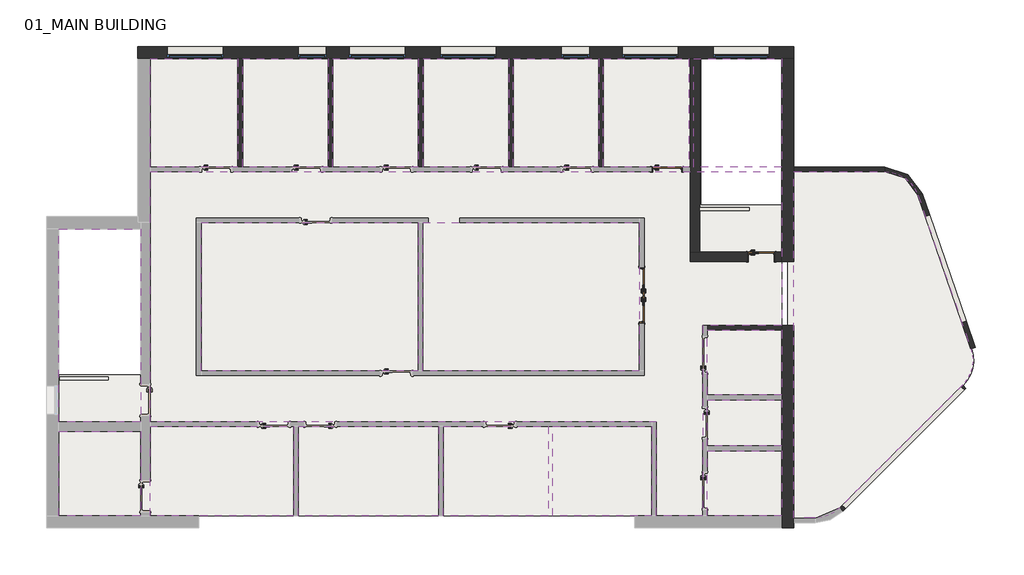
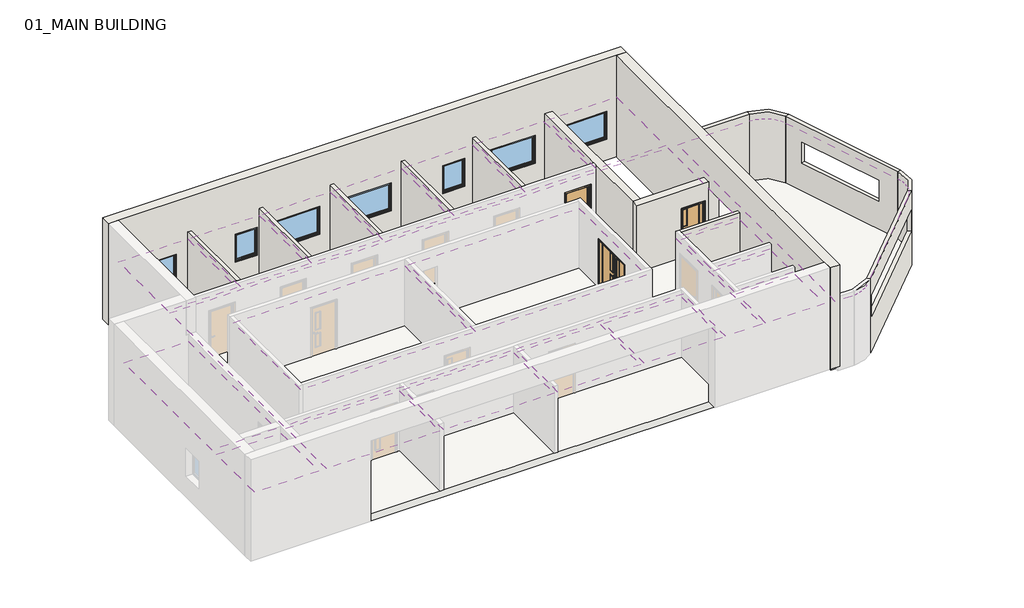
# One storey, part 2 of 2: 20 coverings, 16 walls, 7 windows, 3 doors, 2 slabs.
"""IFC4 building model written with IfcOpenShell, lengths in millimetres."""

from ifc_helpers import new_model, si_unit, point, frame, frame_2d, origin, place, context, project, spatial, polyline, circle_curve, trimmed, segment, composite_curve, outline, extrude, faceted_brep, transform, mapped, element, save
from components import doors_intdbl_3_1810x2110mm_64ebe9ef, doors_intdbl_3_1810x2110mm_1437e5d7, doors_intsgl_1_1010x2110mm_12a6edaf, doors_intsgl_3_910x2110mm_ed6625c4, windows_concept_plain_sgl_1810x1210mm_7f7241d7, windows_concept_plain_sgl_910x1210mm_ef0b7ad2

model = new_model("IFC4")

# Units and contexts
model_context = context("Model", 3, world=origin())
ifc_project = project(units=[si_unit("LENGTHUNIT", "METRE", prefix="MILLI")], contexts=[model_context])

# Site, building, storey
site = spatial("IfcSite", under=ifc_project)
building = spatial("IfcBuilding", under=site)
storey = spatial("IfcBuildingStorey", under=building, Name="01_MAIN BUILDING", Elevation=4500.0)

# Coverings
placement = place(None, origin())
element("IfcCovering", 1, ObjectType="Ceiling_CompoundGeneric", at=placement, inside=storey, context=model_context, shape_type="SweptSolid", body=[
    extrude(outline(polyline([(425322.3206883, -385049.0026386), (425322.3206883, -381550.0026386), (428163.8921169, -381550.0026386), (428163.8921169, -385049.0026386), (425322.3206883, -385049.0026386)])), frame((0.0, 0.0, 7100.0), z_axis=(0.0, 0.0, 1.0), x_axis=(1.0, 0.0, 0.0)), (0.0, 0.0, 1.0), 52.0),
])
element("IfcCovering", 2, ObjectType="Ceiling_CompoundGeneric", at=placement, inside=storey, context=model_context, shape_type="SweptSolid", body=[
    extrude(outline(polyline([(428313.8921169, -381550.0026386), (431080.4635455, -381550.0026386), (431080.4635455, -385049.0026386), (428313.8921169, -385049.0026386), (428313.8921169, -381550.0026386)])), frame((0.0, 0.0, 7100.0), z_axis=(0.0, 0.0, 1.0), x_axis=(1.0, 0.0, 0.0)), (0.0, 0.0, 1.0), 52.0),
])
element("IfcCovering", 3, ObjectType="Ceiling_CompoundGeneric", at=placement, inside=storey, context=model_context, shape_type="SweptSolid", body=[
    extrude(outline(polyline([(431230.4635455, -381550.0026386), (433997.034974, -381550.0026386), (433997.034974, -385049.0026386), (431230.4635455, -385049.0026386), (431230.4635455, -381550.0026386)])), frame((0.0, 0.0, 7100.0), z_axis=(0.0, 0.0, 1.0), x_axis=(1.0, 0.0, 0.0)), (0.0, 0.0, 1.0), 52.0),
])
element("IfcCovering", 4, ObjectType="Ceiling_CompoundGeneric", at=placement, inside=storey, context=model_context, shape_type="SweptSolid", body=[
    extrude(outline(polyline([(434147.034974, -381550.0026386), (436913.6064026, -381550.0026386), (436913.6064026, -385049.0026386), (434147.034974, -385049.0026386), (434147.034974, -381550.0026386)])), frame((0.0, 0.0, 7100.0), z_axis=(0.0, 0.0, 1.0), x_axis=(1.0, 0.0, 0.0)), (0.0, 0.0, 1.0), 52.0),
])
element("IfcCovering", 5, ObjectType="Ceiling_CompoundGeneric", at=placement, inside=storey, context=model_context, shape_type="SweptSolid", body=[
    extrude(outline(polyline([(437063.6064026, -381550.0026386), (439830.1778312, -381550.0026386), (439830.1778312, -385049.0026386), (437063.6064026, -385049.0026386), (437063.6064026, -381550.0026386)])), frame((0.0, 0.0, 7100.0), z_axis=(0.0, 0.0, 1.0), x_axis=(1.0, 0.0, 0.0)), (0.0, 0.0, 1.0), 52.0),
])
element("IfcCovering", 6, ObjectType="Ceiling_CompoundGeneric", at=placement, inside=storey, context=model_context, shape_type="SweptSolid", body=[
    extrude(outline(polyline([(439980.1778312, -381550.0026386), (442746.7492598, -381550.0026386), (442746.7492598, -385049.0026386), (439980.1778312, -385049.0026386), (439980.1778312, -381550.0026386)])), frame((0.0, 0.0, 7100.0), z_axis=(0.0, 0.0, 1.0), x_axis=(1.0, 0.0, 0.0)), (0.0, 0.0, 1.0), 52.0),
])
element("IfcCovering", 7, ObjectType="Ceiling_CompoundGeneric", at=placement, inside=storey, context=model_context, shape_type="SweptSolid", body=[
    extrude(outline(polyline([(442896.7492598, -385049.0026386), (442896.7492598, -381550.0026386), (445738.3206883, -381550.0026386), (445738.3206883, -385049.0026386), (442896.7492598, -385049.0026386)])), frame((0.0, 0.0, 7100.0), z_axis=(0.0, 0.0, 1.0), x_axis=(1.0, 0.0, 0.0)), (0.0, 0.0, 1.0), 52.0),
])
element("IfcCovering", 8, ObjectType="Ceiling_CompoundGeneric", at=placement, inside=storey, context=model_context, shape_type="SweptSolid", body=[
    extrude(outline(polyline([(434142.3206883, -391649.0026386), (434142.3206883, -386849.0026386), (441142.3206883, -386849.0026386), (441142.3206883, -391649.0026386), (434142.3206883, -391649.0026386)])), frame((0.0, 0.0, 7100.0), z_axis=(0.0, 0.0, 1.0), x_axis=(1.0, 0.0, 0.0)), (0.0, 0.0, 1.0), 52.0),
])
element("IfcCovering", 9, ObjectType="Ceiling_CompoundGeneric", at=placement, inside=storey, context=model_context, shape_type="SweptSolid", body=[
    extrude(outline(polyline([(426972.3206883, -386849.0026386), (433992.3206883, -386849.0026386), (433992.3206883, -391649.0026386), (426972.3206883, -391649.0026386), (426972.3206883, -386849.0026386)])), frame((0.0, 0.0, 7100.0), z_axis=(0.0, 0.0, 1.0), x_axis=(1.0, 0.0, 0.0)), (0.0, 0.0, 1.0), 52.0),
])
element("IfcCovering", 10, ObjectType="Ceiling_CompoundGeneric", at=placement, inside=storey, context=model_context, shape_type="SweptSolid", body=[
    extrude(outline(polyline([(422376.3206883, -393299.0026386), (422376.3206883, -387049.0026386), (425012.3206883, -387049.0026386), (425012.3206883, -393299.0026386), (422376.3206883, -393299.0026386)])), frame((0.0, 0.0, 7100.0), z_axis=(0.0, 0.0, 1.0), x_axis=(1.0, 0.0, 0.0)), (0.0, 0.0, 1.0), 52.0),
])
element("IfcCovering", 11, ObjectType="Ceiling_CompoundGeneric", at=placement, inside=storey, context=model_context, shape_type="SweptSolid", body=[
    extrude(outline(polyline([(425012.3206883, -396328.0026386), (422376.3206883, -396328.0026386), (422376.3206883, -394395.0026386), (422376.3206883, -393609.0026386), (425012.3206883, -393609.0026386), (425012.3206883, -396328.0026386)])), frame((0.0, 0.0, 7100.0), z_axis=(0.0, 0.0, 1.0), x_axis=(1.0, 0.0, 0.0)), (0.0, 0.0, 1.0), 52.0),
])
element("IfcCovering", 12, ObjectType="Ceiling_CompoundGeneric", at=placement, inside=storey, context=model_context, shape_type="SweptSolid", body=[
    extrude(outline(polyline([(429969.5429107, -396328.0026386), (425322.3206883, -396328.0026386), (425322.3206883, -393449.0026386), (429969.5429107, -393449.0026386), (429969.5429107, -396328.0026386)])), frame((0.0, 0.0, 7100.0), z_axis=(0.0, 0.0, 1.0), x_axis=(1.0, 0.0, 0.0)), (0.0, 0.0, 1.0), 52.0),
])
element("IfcCovering", 13, ObjectType="Ceiling_CompoundGeneric", at=placement, inside=storey, context=model_context, shape_type="SweptSolid", body=[
    extrude(outline(polyline([(434652.8762438, -396328.0026386), (430119.5429107, -396328.0026386), (430119.5429107, -393449.0026386), (434652.8762438, -393449.0026386), (434652.8762438, -396328.0026386)])), frame((0.0, 0.0, 7100.0), z_axis=(0.0, 0.0, 1.0), x_axis=(1.0, 0.0, 0.0)), (0.0, 0.0, 1.0), 52.0),
])
element("IfcCovering", 14, ObjectType="Ceiling_CompoundGeneric", at=placement, inside=storey, context=model_context, shape_type="SweptSolid", body=[
    extrude(outline(polyline([(438198.3206883, -396328.0026386), (434802.8762438, -396328.0026386), (434802.8762438, -393449.0026386), (438198.3206883, -393449.0026386), (438198.3206883, -396328.0026386)])), frame((0.0, 0.0, 7100.0), z_axis=(0.0, 0.0, 1.0), x_axis=(1.0, 0.0, 0.0)), (0.0, 0.0, 1.0), 52.0),
])
element("IfcCovering", 15, ObjectType="Ceiling_CompoundGeneric", at=placement, inside=storey, context=model_context, shape_type="SweptSolid", body=[
    extrude(outline(polyline([(441538.3206883, -396328.0026386), (438348.3206883, -396328.0026386), (438348.3206883, -393449.0026386), (441538.3206883, -393449.0026386), (441538.3206883, -396328.0026386)])), frame((0.0, 0.0, 7100.0), z_axis=(0.0, 0.0, 1.0), x_axis=(1.0, 0.0, 0.0)), (0.0, 0.0, 1.0), 52.0),
])
element("IfcCovering", 16, ObjectType="Ceiling_CompoundGeneric", at=placement, inside=storey, context=model_context, shape_type="SweptSolid", body=[
    extrude(outline(polyline([(445738.3206883, -394228.0026386), (445738.3206883, -396328.0026386), (443338.3206883, -396328.0026386), (443338.3206883, -394228.0026386), (445738.3206883, -394228.0026386)])), frame((0.0, 0.0, 7100.0), z_axis=(0.0, 0.0, 1.0), x_axis=(1.0, 0.0, 0.0)), (0.0, 0.0, 1.0), 52.0),
])
element("IfcCovering", 17, ObjectType="Ceiling_CompoundGeneric", at=placement, inside=storey, context=model_context, shape_type="SweptSolid", body=[
    extrude(outline(polyline([(445738.3206883, -392578.0026386), (445738.3206883, -394078.0026386), (443338.3206883, -394078.0026386), (443338.3206883, -392578.0026386), (445738.3206883, -392578.0026386)])), frame((0.0, 0.0, 7100.0), z_axis=(0.0, 0.0, 1.0), x_axis=(1.0, 0.0, 0.0)), (0.0, 0.0, 1.0), 52.0),
])
element("IfcCovering", 18, ObjectType="Ceiling_CompoundGeneric", at=placement, inside=storey, context=model_context, shape_type="SweptSolid", body=[
    extrude(outline(polyline([(445738.3206883, -390328.0026386), (445738.3206883, -392428.0026386), (443338.3206883, -392428.0026386), (443338.3206883, -390328.0026386), (445738.3206883, -390328.0026386)])), frame((0.0, 0.0, 7100.0), z_axis=(0.0, 0.0, 1.0), x_axis=(1.0, 0.0, 0.0)), (0.0, 0.0, 1.0), 52.0),
])
element("IfcCovering", 19, ObjectType="Ceiling_CompoundGeneric", at=placement, inside=storey, context=model_context, shape_type="SweptSolid", body=[
    extrude(outline(polyline([(445738.3206883, -385199.0026386), (445738.3206883, -390178.0026386), (443188.3206883, -390178.0026386), (443188.3206883, -396328.0026386), (441688.3206883, -396328.0026386), (441688.3206883, -393299.0026386), (425322.3206883, -393299.0026386), (425322.3206883, -386848.0026386), (425322.3206883, -385199.0026386), (445738.3206883, -385199.0026386)]), holes=[polyline([(441292.3206883, -391799.0026386), (441292.3206883, -386699.0026386), (426822.3206883, -386699.0026386), (426822.3206883, -391799.0026386), (441292.3206883, -391799.0026386)])]), frame((0.0, 0.0, 7100.0), z_axis=(0.0, 0.0, 1.0), x_axis=(1.0, 0.0, 0.0)), (0.0, 0.0, 1.0), 52.0),
])
element("IfcCovering", 20, ObjectType="Ceiling_CompoundGeneric", at=placement, inside=storey, context=model_context, shape_type="SweptSolid", body=[
    extrude(outline(composite_curve([segment(polyline([(446140.3206883, -396408.0026386), (446140.3206883, -385199.0026386), (449083.3690069, -385199.0026386)]), True, "CONTINUOUS"), segment(trimmed(circle_curve(frame_2d((449083.3690069, -386324.0026386)), 1125.0), [point((449083.3690069, -385199.0026386))], [point((450147.0774044, -385957.7384648))], False, "CARTESIAN"), True, "CONTINUOUS"), segment(polyline([(450147.0774044, -385957.7384648), (451862.4112075, -390939.4295547)]), True, "CONTINUOUS"), segment(trimmed(circle_curve(frame_2d((450798.70281, -391305.6937285)), 1125.0), [point((451862.4112075, -390939.4295547))], [point((451594.1979388, -392101.1888573))], False, "CARTESIAN"), True, "CONTINUOUS"), segment(polyline([(451594.1979388, -392101.1888573), (447616.8890287, -396078.4977674)]), True, "CONTINUOUS"), segment(trimmed(circle_curve(frame_2d((446821.3938999, -395283.0026386)), 1125.0), [point((447616.8890287, -396078.4977674))], [point((446821.3938999, -396408.0026386))], False, "CARTESIAN"), True, "CONTINUOUS"), segment(polyline([(446821.3938999, -396408.0026386), (446140.3206883, -396408.0026386)]), True, "CONTINUOUS")], self_intersect=False)), frame((0.0, 0.0, 7100.0), z_axis=(0.0, 0.0, 1.0), x_axis=(1.0, 0.0, 0.0)), (0.0, 0.0, 1.0), 52.0),
])

# Doors
doors_intdbl_3_1810x2110mm_shape = doors_intdbl_3_1810x2110mm_64ebe9ef(model_context)
doors_intdbl_3_1810x2110mm_2_shape = doors_intdbl_3_1810x2110mm_1437e5d7(model_context)
element("IfcDoor", 21, ObjectType="Doors_IntDbl_3 : 1810x2110mm", at=placement, inside=storey, context=model_context, shape_type="MappedRepresentation", body=[
    mapped(doors_intdbl_3_1810x2110mm_shape, transform((441217.3206883, -389199.0026386, 4500.0), x_axis=(0.0, -1.0, 0.0), y_axis=(1.0, 0.0, 0.0), z_axis=(0.0, 0.0, 1.0))),
    mapped(doors_intdbl_3_1810x2110mm_2_shape, transform((441217.3206883, -389199.0026386, 4500.0), x_axis=(0.0, -1.0, 0.0), y_axis=(1.0, 0.0, 0.0), z_axis=(0.0, 0.0, 1.0))),
])
doors_intsgl_1_1010x2110mm_shape = doors_intsgl_1_1010x2110mm_12a6edaf(model_context)
element("IfcDoor", 22, ObjectType="Doors_IntSgl_1 : 1010x2110mm", at=placement, inside=storey, context=model_context, shape_type="MappedRepresentation", body=[
    mapped(doors_intsgl_1_1010x2110mm_shape, transform((442041.7492598, -385124.0026386, 4500.0), x_axis=(1.0, 0.0, 0.0), y_axis=(0.0, 1.0, 0.0), z_axis=(0.0, 0.0, 1.0))),
])
doors_intsgl_3_910x2110mm_shape = doors_intsgl_3_910x2110mm_ed6625c4(model_context)
element("IfcDoor", 23, ObjectType="Doors_IntSgl_3 : 910x2110mm", at=placement, inside=storey, context=model_context, shape_type="MappedRepresentation", body=[
    mapped(doors_intsgl_3_910x2110mm_shape, transform((445083.3206883, -387955.0026386, 4500.0), x_axis=(1.0, 0.0, 0.0), y_axis=(0.0, 1.0, 0.0), z_axis=(0.0, 0.0, 1.0))),
])

# Slabs
element("IfcSlab", 24, ObjectType="Floor_WSUK_Suspended", at=placement, inside=storey, context=model_context, shape_type="SweptSolid", body=[
    extrude(outline(polyline([(425322.3206883, -387049.0026386), (425322.3206883, -381550.0026386), (443122.3206883, -381550.0026386), (443122.3206883, -386275.0026386), (445738.3206883, -386275.0026386), (445738.3206883, -396328.0026386), (422376.3206883, -396328.0026386), (422376.3206883, -391774.0026386), (425012.3206883, -391774.0026386), (425012.3206883, -387049.0026386), (425322.3206883, -387049.0026386)])), frame((0.0, 0.0, 4200.0), z_axis=(0.0, 0.0, 1.0), x_axis=(1.0, 0.0, 0.0)), (0.0, 0.0, 1.0), 300.0),
])
element("IfcSlab", 25, ObjectType="Floor_WSUK_Suspended", at=placement, inside=storey, context=model_context, shape_type="SweptSolid", body=[
    extrude(outline(composite_curve([segment(trimmed(circle_curve(frame_2d((449083.3690069, -386324.0026386)), 1150.0), [point((449083.3690069, -385174.0026386))], [point((450170.7153688, -385949.599261))], False, "CARTESIAN"), True, "CONTINUOUS"), segment(polyline([(450170.7153688, -385949.599261), (451886.0491719, -390931.2903509)]), True, "CONTINUOUS"), segment(trimmed(circle_curve(frame_2d((450798.70281, -391305.6937285)), 1150.0), [point((451886.0491719, -390931.2903509))], [point((451611.8756083, -392118.8665269))], False, "CARTESIAN"), True, "CONTINUOUS"), segment(polyline([(451611.8756083, -392118.8665269), (447634.5666982, -396096.175437)]), True, "CONTINUOUS"), segment(trimmed(circle_curve(frame_2d((446821.3938999, -395283.0026386)), 1150.0), [point((447634.5666982, -396096.175437))], [point((446821.3938999, -396433.0026386))], False, "CARTESIAN"), True, "CONTINUOUS"), segment(polyline([(446821.3938999, -396433.0026386), (445939.3206883, -396433.0026386), (445939.3206883, -385174.0026386), (449083.3690069, -385174.0026386)]), True, "CONTINUOUS")], self_intersect=False)), frame((0.0, 0.0, 4200.0), z_axis=(0.0, 0.0, 1.0), x_axis=(1.0, 0.0, 0.0)), (0.0, 0.0, 1.0), 300.0),
])

# Walls
element("IfcWall", 26, ObjectType="Wall_Exterior_WSUK", at=placement, inside=storey, context=model_context, shape_type="Brep", body=[
    faceted_brep([(424920.3206883, -381550.0026386, 8900.0), (424920.3206883, -381550.0026386, 4500.0), (425012.3206883, -381550.0026386, 4500.0), (425322.3206883, -381550.0026386, 4500.0), (425414.3206883, -381550.0026386, 4500.0), (428163.8921169, -381550.0026386, 4500.0), (428313.8921169, -381550.0026386, 4500.0), (431080.4635455, -381550.0026386, 4500.0), (431230.4635455, -381550.0026386, 4500.0), (433997.034974, -381550.0026386, 4500.0), (434147.034974, -381550.0026386, 4500.0), (436913.6064026, -381550.0026386, 4500.0), (437063.6064026, -381550.0026386, 4500.0), (439830.1778312, -381550.0026386, 4500.0), (439980.1778312, -381550.0026386, 4500.0), (442792.3206883, -381550.0026386, 4500.0), (443102.3206883, -381550.0026386, 4500.0), (445738.3206883, -381550.0026386, 4500.0), (446140.3206883, -381550.0026386, 4500.0), (446140.3206883, -381550.0026386, 8900.0), (445738.3206883, -381550.0026386, 8900.0), (425322.3206883, -381550.0026386, 8900.0), (439530.1302121, -381550.0026386, 6610.0), (439530.1302121, -381550.0026386, 5400.0), (438620.1302121, -381550.0026386, 5400.0), (438620.1302121, -381550.0026386, 6610.0), (436518.4278312, -381550.0026386, 6610.0), (436518.4278312, -381550.0026386, 5400.0), (434708.4278312, -381550.0026386, 5400.0), (434708.4278312, -381550.0026386, 6610.0), (433576.7254502, -381550.0026386, 6610.0), (433576.7254502, -381550.0026386, 5400.0), (431766.7254502, -381550.0026386, 5400.0), (431766.7254502, -381550.0026386, 6610.0), (431020.4635455, -381550.0026386, 6610.0), (431020.4635455, -381550.0026386, 5400.0), (430110.4635455, -381550.0026386, 5400.0), (430110.4635455, -381550.0026386, 6610.0), (427693.3206883, -381550.0026386, 6610.0), (427693.3206883, -381550.0026386, 5400.0), (425883.3206883, -381550.0026386, 5400.0), (425883.3206883, -381550.0026386, 6610.0), (442401.8325931, -381550.0026386, 6610.0), (442401.8325931, -381550.0026386, 5400.0), (440591.8325931, -381550.0026386, 5400.0), (440591.8325931, -381550.0026386, 6610.0), (445343.534974, -381550.0026386, 6610.0), (445343.534974, -381550.0026386, 5400.0), (443533.534974, -381550.0026386, 5400.0), (443533.534974, -381550.0026386, 6610.0), (424920.3206883, -381148.0026386, 4500.0), (424920.3206883, -381148.0026386, 8900.0), (446140.3206883, -381148.0026386, 8900.0), (446140.3206883, -381148.0026386, 4500.0), (425414.3206883, -381148.0026386, 4500.0), (425012.3206883, -381148.0026386, 4500.0), (439530.1302121, -381148.0026386, 6610.0), (438620.1302121, -381148.0026386, 6610.0), (438620.1302121, -381148.0026386, 5400.0), (439530.1302121, -381148.0026386, 5400.0), (436518.4278312, -381148.0026386, 6610.0), (434708.4278312, -381148.0026386, 6610.0), (434708.4278312, -381148.0026386, 5400.0), (436518.4278312, -381148.0026386, 5400.0), (433576.7254502, -381148.0026386, 6610.0), (431766.7254502, -381148.0026386, 6610.0), (431766.7254502, -381148.0026386, 5400.0), (433576.7254502, -381148.0026386, 5400.0), (431020.4635455, -381148.0026386, 6610.0), (430110.4635455, -381148.0026386, 6610.0), (430110.4635455, -381148.0026386, 5400.0), (431020.4635455, -381148.0026386, 5400.0), (427693.3206883, -381148.0026386, 6610.0), (425883.3206883, -381148.0026386, 6610.0), (425883.3206883, -381148.0026386, 5400.0), (427693.3206883, -381148.0026386, 5400.0), (442401.8325931, -381148.0026386, 6610.0), (440591.8325931, -381148.0026386, 6610.0), (440591.8325931, -381148.0026386, 5400.0), (442401.8325931, -381148.0026386, 5400.0), (445343.534974, -381148.0026386, 6610.0), (443533.534974, -381148.0026386, 6610.0), (443533.534974, -381148.0026386, 5400.0), (445343.534974, -381148.0026386, 5400.0)], [[[0, 1, 2, 3, 4, 5, 6, 7, 8, 9, 10, 11, 12, 13, 14, 15, 16, 17, 18, 19, 20, 21], [22, 23, 24, 25], [26, 27, 28, 29], [30, 31, 32, 33], [34, 35, 36, 37], [38, 39, 40, 41], [42, 43, 44, 45], [46, 47, 48, 49]], [[50, 51, 52, 53, 54, 55], [56, 57, 58, 59], [60, 61, 62, 63], [64, 65, 66, 67], [68, 69, 70, 71], [72, 73, 74, 75], [76, 77, 78, 79], [80, 81, 82, 83]], [[18, 17, 16, 15, 14, 13, 12, 11, 10, 9, 8, 7, 6, 5, 4, 3, 2, 1, 50, 55, 54, 53]], [[0, 21, 20, 19, 52, 51]], [[19, 18, 53, 52]], [[0, 51, 50, 1]], [[23, 22, 56, 59]], [[24, 23, 59, 58]], [[25, 24, 58, 57]], [[22, 25, 57, 56]], [[27, 26, 60, 63]], [[28, 27, 63, 62]], [[29, 28, 62, 61]], [[26, 29, 61, 60]], [[31, 30, 64, 67]], [[32, 31, 67, 66]], [[33, 32, 66, 65]], [[30, 33, 65, 64]], [[35, 34, 68, 71]], [[36, 35, 71, 70]], [[37, 36, 70, 69]], [[34, 37, 69, 68]], [[39, 38, 72, 75]], [[40, 39, 75, 74]], [[41, 40, 74, 73]], [[38, 41, 73, 72]], [[43, 42, 76, 79]], [[44, 43, 79, 78]], [[45, 44, 78, 77]], [[42, 45, 77, 76]], [[47, 46, 80, 83]], [[48, 47, 83, 82]], [[49, 48, 82, 81]], [[46, 49, 81, 80]]]),
])
element("IfcWall", 27, ObjectType="Wall_Exterior_WSUK", at=placement, inside=storey, context=model_context, shape_type="Brep", body=[
    faceted_brep([(445738.3206883, -396730.0026386, 4500.0), (445738.3206883, -396730.0026386, 8900.0), (445738.3206883, -396328.0026386, 8900.0), (445738.3206883, -381550.0026386, 8900.0), (445738.3206883, -381550.0026386, 4500.0), (445738.3206883, -387800.0026386, 4500.0), (445738.3206883, -388110.0026386, 4500.0), (445738.3206883, -388110.0026386, 7100.0), (445738.3206883, -390178.0026386, 7100.0), (445738.3206883, -390178.0026386, 4500.0), (445738.3206883, -390328.0026386, 4500.0), (445738.3206883, -392428.0026386, 4500.0), (445738.3206883, -392578.0026386, 4500.0), (445738.3206883, -394078.0026386, 4500.0), (445738.3206883, -394228.0026386, 4500.0), (445738.3206883, -396328.0026386, 4500.0), (446140.3206883, -396730.0026386, 8900.0), (446140.3206883, -396730.0026386, 4500.0), (446140.3206883, -390178.0026386, 4500.0), (446140.3206883, -390178.0026386, 7100.0), (446140.3206883, -388110.0026386, 7100.0), (446140.3206883, -388110.0026386, 4500.0), (446140.3206883, -381550.0026386, 4500.0), (446140.3206883, -381550.0026386, 8900.0)], [[[0, 1, 2, 3, 4, 5, 6, 7, 8, 9, 10, 11, 12, 13, 14, 15]], [[16, 17, 18, 19, 20, 21, 22, 23]], [[4, 22, 21, 6, 5]], [[17, 0, 15, 14, 13, 12, 11, 10, 9, 18]], [[3, 2, 1, 16, 23]], [[4, 3, 23, 22]], [[0, 17, 16, 1]], [[7, 20, 19, 8]], [[8, 19, 18, 9]], [[20, 7, 6, 21]]]),
])
element("IfcWall", 28, ObjectType="Wall_Interior_WSUK", at=placement, inside=storey, context=model_context, shape_type="SweptSolid", body=[
    extrude(outline(polyline([(439980.1778312, -381550.0026386), (439980.1778312, -385049.0026386), (439830.1778312, -385049.0026386), (439830.1778312, -381550.0026386), (439980.1778312, -381550.0026386)])), frame((0.0, 0.0, 4500.0), z_axis=(0.0, 0.0, 1.0), x_axis=(1.0, 0.0, 0.0)), (0.0, 0.0, 1.0), 2900.0),
])
element("IfcWall", 29, ObjectType="Wall_Interior_WSUK", at=placement, inside=storey, context=model_context, shape_type="SweptSolid", body=[
    extrude(outline(polyline([(437063.6064026, -381550.0026386), (437063.6064026, -385049.0026386), (436913.6064026, -385049.0026386), (436913.6064026, -381550.0026386), (437063.6064026, -381550.0026386)])), frame((0.0, 0.0, 4500.0), z_axis=(0.0, 0.0, 1.0), x_axis=(1.0, 0.0, 0.0)), (0.0, 0.0, 1.0), 2900.0),
])
element("IfcWall", 30, ObjectType="Wall_Interior_WSUK", at=placement, inside=storey, context=model_context, shape_type="SweptSolid", body=[
    extrude(outline(polyline([(434147.034974, -381550.0026386), (434147.034974, -385049.0026386), (433997.034974, -385049.0026386), (433997.034974, -381550.0026386), (434147.034974, -381550.0026386)])), frame((0.0, 0.0, 4500.0), z_axis=(0.0, 0.0, 1.0), x_axis=(1.0, 0.0, 0.0)), (0.0, 0.0, 1.0), 2900.0),
])
element("IfcWall", 31, ObjectType="Wall_Interior_WSUK", at=placement, inside=storey, context=model_context, shape_type="SweptSolid", body=[
    extrude(outline(polyline([(431230.4635455, -381550.0026386), (431230.4635455, -385049.0026386), (431080.4635455, -385049.0026386), (431080.4635455, -381550.0026386), (431230.4635455, -381550.0026386)])), frame((0.0, 0.0, 4500.0), z_axis=(0.0, 0.0, 1.0), x_axis=(1.0, 0.0, 0.0)), (0.0, 0.0, 1.0), 2900.0),
])
element("IfcWall", 32, ObjectType="Wall_Interior_WSUK", at=placement, inside=storey, context=model_context, shape_type="SweptSolid", body=[
    extrude(outline(polyline([(428313.8921169, -381550.0026386), (428313.8921169, -385049.0026386), (428163.8921169, -385049.0026386), (428163.8921169, -381550.0026386), (428313.8921169, -381550.0026386)])), frame((0.0, 0.0, 4500.0), z_axis=(0.0, 0.0, 1.0), x_axis=(1.0, 0.0, 0.0)), (0.0, 0.0, 1.0), 2900.0),
])
element("IfcWall", 33, ObjectType="Wall_Interior_WSUK", at=placement, inside=storey, context=model_context, shape_type="Brep", body=[
    faceted_brep([(443338.3206883, -390328.0026386, 4500.0), (445738.3206883, -390328.0026386, 4500.0), (445738.3206883, -390328.0026386, 7400.0), (443338.3206883, -390328.0026386, 7400.0), (443338.3206883, -390178.0026386, 4500.0), (443338.3206883, -390178.0026386, 7400.0), (445738.3206883, -390178.0026386, 7400.0), (445738.3206883, -390178.0026386, 7100.0), (445738.3206883, -390178.0026386, 4500.0)], [[[0, 1, 2, 3]], [[4, 5, 6, 7, 8]], [[1, 0, 4, 8]], [[3, 2, 6, 5]], [[0, 3, 5, 4]], [[2, 1, 8, 7, 6]]]),
])
element("IfcWall", 34, ObjectType="Wall_Interior_WSUK", at=placement, inside=storey, context=model_context, shape_type="SweptSolid", body=[
    extrude(outline(polyline([(449083.3690069, -385199.0026386), (446140.3206883, -385199.0026386), (446140.3206883, -385049.0026386), (449083.3690069, -385049.0026386), (449083.3690069, -385199.0026386)])), frame((0.0, 0.0, 4200.0), z_axis=(0.0, 0.0, 1.0), x_axis=(1.0, 0.0, 0.0)), (0.0, 0.0, 1.0), 3200.0),
])
element("IfcWall", 35, ObjectType="Wall_Interior_WSUK", at=placement, inside=storey, context=model_context, shape_type="SweptSolid", body=[
    extrude(outline(polyline([(855.9516814, 0.0), (6124.6912054, 0.0), (6124.6912054, -3200.0), (855.9516814, -3200.0), (855.9516814, 0.0)]), holes=[polyline([(1590.3214434, -2410.0), (5210.3214434, -2410.0), (5210.3214434, -1500.0), (1590.3214434, -1500.0), (1590.3214434, -2410.0)])]), frame((449868.4067952, -385148.4202502, 4200.0), z_axis=(0.9455185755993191, 0.32556815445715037, 0.0), x_axis=(0.32556815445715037, -0.9455185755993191, 0.0)), (0.0, 0.0, 1.0), 150.0),
])
element("IfcWall", 36, ObjectType="Wall_Interior_WSUK", at=placement, inside=storey, context=model_context, shape_type="SweptSolid", body=[
    extrude(outline(polyline([(-6374.6074247, 0.0), (-749.8432223, 0.0), (-749.8432223, -3200.0), (-6374.6074247, -3200.0), (-6374.6074247, 0.0)]), holes=[polyline([(-829.8432223, -1500.0), (-6254.6074247, -1500.0), (-6254.6074247, -2410.0), (-829.8432223, -2410.0), (-829.8432223, -1500.0)])]), frame((452230.4831833, -391677.0356472, 4200.0), z_axis=(-0.7071067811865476, 0.7071067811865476, 0.0), x_axis=(0.7071067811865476, 0.7071067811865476, 0.0)), (0.0, 0.0, 1.0), 150.0),
])
element("IfcWall", 37, ObjectType="Wall_Interior_WSUK", at=placement, inside=storey, context=model_context, shape_type="SweptSolid", body=[
    extrude(outline(composite_curve([segment(polyline([(450288.9051907, -385908.9032417), (450147.0774044, -385957.7384648)]), True, "CONTINUOUS"), segment(trimmed(circle_curve(frame_2d((449083.3690069, -386324.0026386)), 1125.0), [point((450147.0774044, -385957.7384648))], [point((449083.3690069, -385199.0026386))], True, "CARTESIAN"), True, "CONTINUOUS"), segment(polyline([(449083.3690069, -385199.0026386), (449083.3690069, -385049.0026386)]), True, "CONTINUOUS"), segment(trimmed(circle_curve(frame_2d((449083.3690069, -386324.0026386)), 1275.0), [point((449083.3690069, -385049.0026386))], [point((450288.9051907, -385908.9032417))], False, "CARTESIAN"), True, "CONTINUOUS")], self_intersect=False)), frame((0.0, 0.0, 4200.0), z_axis=(0.0, 0.0, 1.0), x_axis=(1.0, 0.0, 0.0)), (0.0, 0.0, 1.0), 3200.0),
])
element("IfcWall", 38, ObjectType="Wall_Interior_WSUK", at=placement, inside=storey, context=model_context, shape_type="SweptSolid", body=[
    extrude(outline(composite_curve([segment(trimmed(circle_curve(frame_2d((450798.70281, -391305.6937285)), 1275.0), [point((452004.2389939, -390890.5943316))], [point((451700.263956, -392207.2548745))], False, "CARTESIAN"), True, "CONTINUOUS"), segment(polyline([(451700.263956, -392207.2548745), (451594.1979388, -392101.1888573)]), True, "CONTINUOUS"), segment(trimmed(circle_curve(frame_2d((450798.70281, -391305.6937285)), 1125.0), [point((451594.1979388, -392101.1888573))], [point((451862.4112075, -390939.4295547))], True, "CARTESIAN"), True, "CONTINUOUS"), segment(polyline([(451862.4112075, -390939.4295547), (452004.2389939, -390890.5943316)]), True, "CONTINUOUS")], self_intersect=False)), frame((0.0, 0.0, 4200.0), z_axis=(0.0, 0.0, 1.0), x_axis=(1.0, 0.0, 0.0)), (0.0, 0.0, 1.0), 3200.0),
])
element("IfcWall", 39, ObjectType="Wall_Exterior_WSUK 2hr", at=placement, inside=storey, context=model_context, shape_type="Brep", body=[
    faceted_brep([(442792.3206883, -381550.0026386, 4500.0), (442792.3206883, -385049.0026386, 4500.0), (442792.3206883, -385199.0026386, 4500.0), (442792.3206883, -387800.0026386, 4500.0), (442792.3206883, -387800.0026386, 7400.0), (442792.3206883, -385199.0026386, 7400.0), (442792.3206883, -385049.0026386, 7400.0), (442792.3206883, -381550.0026386, 7400.0), (443102.3206883, -381550.0026386, 4500.0), (443102.3206883, -381550.0026386, 7400.0), (443102.3206883, -387800.0026386, 7400.0), (443102.3206883, -387800.0026386, 4500.0), (443102.3206883, -386455.0026386, 4500.0), (443102.3206883, -386355.0026386, 4500.0)], [[[0, 1, 2, 3, 4, 5, 6, 7]], [[8, 9, 10, 11, 12, 13]], [[3, 2, 1, 0, 8, 13, 12, 11]], [[7, 6, 5, 4, 10, 9]], [[4, 3, 11, 10]], [[0, 7, 9, 8]]]),
])
element("IfcWall", 40, ObjectType="Wall_Exterior_WSUK 2hr", at=placement, inside=storey, context=model_context, shape_type="Brep", body=[
    faceted_brep([(442792.3206883, -387800.0026386, 7400.0), (443102.3206883, -387800.0026386, 7400.0), (445738.3206883, -387800.0026386, 7400.0), (445738.3206883, -387800.0026386, 4500.0), (445538.3206883, -387800.0026386, 4500.0), (445538.3206883, -387800.0026386, 6610.0), (444628.3206883, -387800.0026386, 6610.0), (444628.3206883, -387800.0026386, 4500.0), (443102.3206883, -387800.0026386, 4500.0), (442792.3206883, -387800.0026386, 4500.0), (445738.3206883, -388110.0026386, 7400.0), (442792.3206883, -388110.0026386, 7400.0), (442792.3206883, -388110.0026386, 4500.0), (444628.3206883, -388110.0026386, 4500.0), (444628.3206883, -388110.0026386, 6610.0), (445538.3206883, -388110.0026386, 6610.0), (445538.3206883, -388110.0026386, 4500.0), (445738.3206883, -388110.0026386, 4500.0), (445738.3206883, -388110.0026386, 7100.0)], [[[0, 1, 2, 3, 4, 5, 6, 7, 8, 9]], [[10, 11, 12, 13, 14, 15, 16, 17, 18]], [[3, 17, 16, 4]], [[12, 9, 8, 7, 13]], [[2, 1, 0, 11, 10]], [[9, 12, 11, 0]], [[17, 3, 2, 10, 18]], [[15, 5, 4, 16]], [[5, 15, 14, 6]], [[6, 14, 13, 7]]]),
])
element("IfcWall", 41, ObjectType="Wall_Interior_Generic", at=placement, inside=storey, context=model_context, shape_type="SweptSolid", body=[
    extrude(outline(polyline([(444688.3206883, -386455.0026386), (443102.3206883, -386455.0026386), (443102.3206883, -386355.0026386), (444688.3206883, -386355.0026386), (444688.3206883, -386455.0026386)])), frame((0.0, 0.0, 4500.0), z_axis=(0.0, 0.0, 1.0), x_axis=(1.0, 0.0, 0.0)), (0.0, 0.0, 1.0), 1200.0),
])

# Windows
windows_concept_plain_sgl_1810x1210mm_shape = windows_concept_plain_sgl_1810x1210mm_7f7241d7(model_context)
element("IfcWindow", 42, ObjectType="Windows_Concept_Plain_Sgl : 1810x1210mm", at=placement, inside=storey, context=model_context, shape_type="MappedRepresentation", body=[
    mapped(windows_concept_plain_sgl_1810x1210mm_shape, transform((426788.3206883, -381340.5460708, 4500.0), x_axis=(-1.0, 0.0, 0.0), y_axis=(0.0, -1.0, 0.0), z_axis=(0.0, 0.0, 1.0))),
])
element("IfcWindow", 43, ObjectType="Windows_Concept_Plain_Sgl : 1810x1210mm", at=placement, inside=storey, context=model_context, shape_type="MappedRepresentation", body=[
    mapped(windows_concept_plain_sgl_1810x1210mm_shape, transform((432671.7254502, -381340.5460708, 4500.0), x_axis=(-1.0, 0.0, 0.0), y_axis=(0.0, -1.0, 0.0), z_axis=(0.0, 0.0, 1.0))),
])
element("IfcWindow", 44, ObjectType="Windows_Concept_Plain_Sgl : 1810x1210mm", at=placement, inside=storey, context=model_context, shape_type="MappedRepresentation", body=[
    mapped(windows_concept_plain_sgl_1810x1210mm_shape, transform((435613.4278312, -381340.5460708, 4500.0), x_axis=(-1.0, 0.0, 0.0), y_axis=(0.0, -1.0, 0.0), z_axis=(0.0, 0.0, 1.0))),
])
element("IfcWindow", 45, ObjectType="Windows_Concept_Plain_Sgl : 1810x1210mm", at=placement, inside=storey, context=model_context, shape_type="MappedRepresentation", body=[
    mapped(windows_concept_plain_sgl_1810x1210mm_shape, transform((441496.8325931, -381340.5460708, 4500.0), x_axis=(-1.0, 0.0, 0.0), y_axis=(0.0, -1.0, 0.0), z_axis=(0.0, 0.0, 1.0))),
])
element("IfcWindow", 46, ObjectType="Windows_Concept_Plain_Sgl : 1810x1210mm", at=placement, inside=storey, context=model_context, shape_type="MappedRepresentation", body=[
    mapped(windows_concept_plain_sgl_1810x1210mm_shape, transform((444438.534974, -381340.5460708, 4500.0), x_axis=(-1.0, 0.0, 0.0), y_axis=(0.0, -1.0, 0.0), z_axis=(0.0, 0.0, 1.0))),
])
windows_concept_plain_sgl_910x1210mm_shape = windows_concept_plain_sgl_910x1210mm_ef0b7ad2(model_context)
element("IfcWindow", 47, ObjectType="Windows_Concept_Plain_Sgl : 910x1210mm", at=placement, inside=storey, context=model_context, shape_type="MappedRepresentation", body=[
    mapped(windows_concept_plain_sgl_910x1210mm_shape, transform((430565.4635455, -381340.5460708, 4500.0), x_axis=(-1.0, 0.0, 0.0), y_axis=(0.0, -1.0, 0.0), z_axis=(0.0, 0.0, 1.0))),
])
element("IfcWindow", 48, ObjectType="Windows_Concept_Plain_Sgl : 910x1210mm", at=placement, inside=storey, context=model_context, shape_type="MappedRepresentation", body=[
    mapped(windows_concept_plain_sgl_910x1210mm_shape, transform((439075.1302121, -381340.5460708, 4500.0), x_axis=(-1.0, 0.0, 0.0), y_axis=(0.0, -1.0, 0.0), z_axis=(0.0, 0.0, 1.0))),
])

save(model, "model.ifc")
